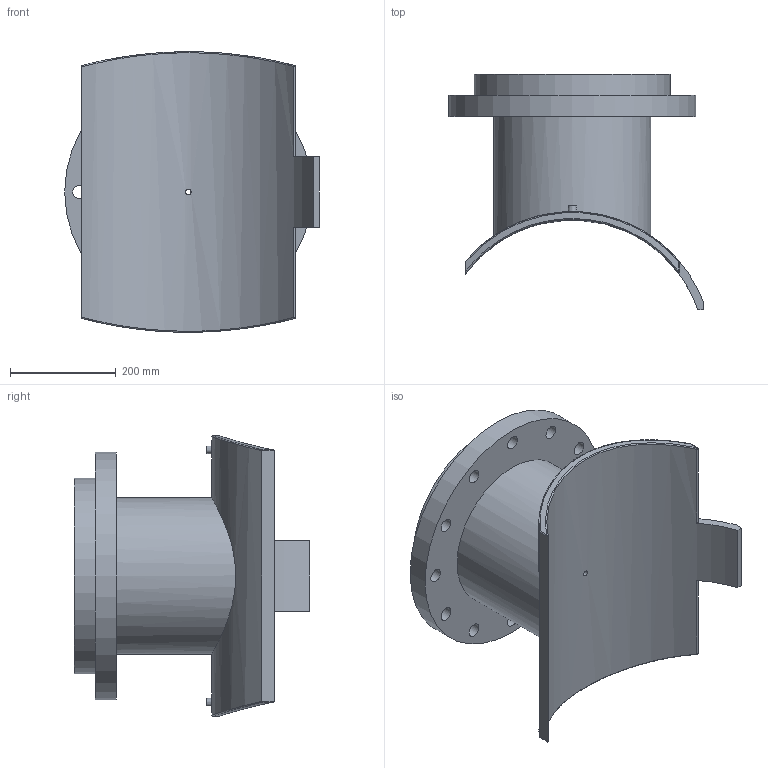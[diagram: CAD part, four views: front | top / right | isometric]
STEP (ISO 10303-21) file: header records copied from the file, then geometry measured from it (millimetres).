
FILE_DESCRIPTION(/* description */ ('PLASSON FLANGED BRANCH SADDLE 500X300'),/* implementation_level */ '2;1');
FILE_NAME(/* name */ 'C:\Dropbox\KIMPROJECTS-Inventor 2019\99-16-3568-Processing\ElectroFusion Fittings\495904_495903\stp\495903500300T.stp',/* time_stamp */ '2024-04-03T21:04:39+02:00',/* author */ ('KIM'),/* organization */ (''),/* preprocessor_version */ 'ST-DEVELOPER v17.2',/* originating_system */ 'Autodesk Inventor 2019',/* authorisation */ '');
FILE_SCHEMA (('AUTOMOTIVE_DESIGN { 1 0 10303 214 3 1 1 }'));
Length unit declared in the file: millimetre
Products named in the file (1): 495903500300T
Bounding box: 481 x 445.3 x 529.9 mm (x, y, z)
Volume: 13882665.1 mm3; surface area: 1298457.1 mm2
Topology: 1 solids, 1 shells, 62 faces, 163 edges, 126 vertices
Faces by surface type: cylinder 35, plane 17, sphere 4, bspline 4, cone 2
Full cylindrical faces by diameter (mm): 4 x2, 10 x2, 10.4 x1, 16 x1, 26 x12, 257 x1, 296 x1, 370 x1, 467 x1
Entity records: 2594 total; most frequent: CARTESIAN_POINT 966, DIRECTION 325, ORIENTED_EDGE 298, EDGE_CURVE 149, AXIS2_PLACEMENT_3D 137, VERTEX_POINT 100, EDGE_LOOP 99, CIRCLE 78
